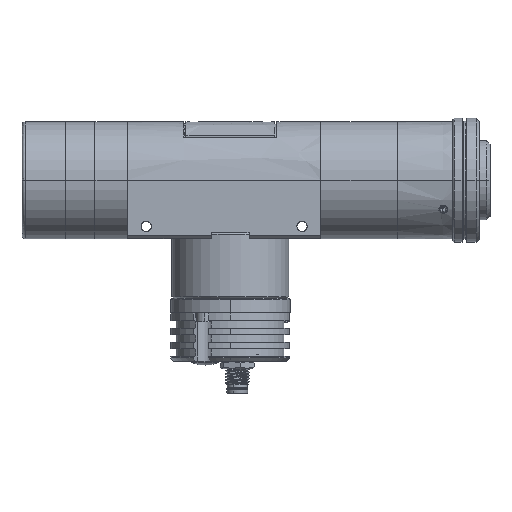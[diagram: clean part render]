
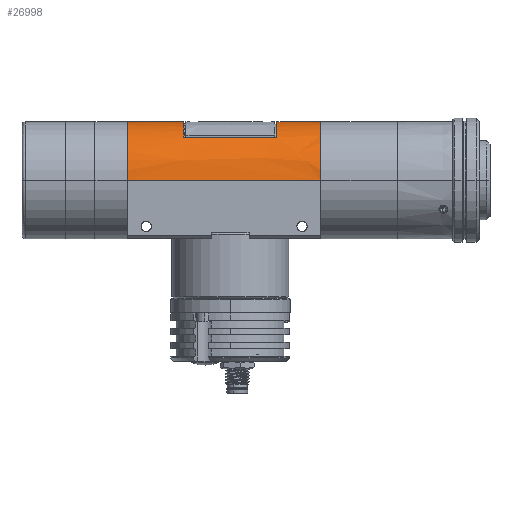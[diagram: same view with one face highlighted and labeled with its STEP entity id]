
A CAD part, top view. The second image highlights one B-rep face of the part: STEP entity #26998.
In plain terms, the highlighted face is a revolution surface.
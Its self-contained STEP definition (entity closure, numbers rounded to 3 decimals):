
#26998 = ADVANCED_FACE('',(#26999,#27071),#27013,.T.);
#26999 = FACE_BOUND('',#27000,.T.);
#27000 = EDGE_LOOP('',(#27001,#27026,#27042,#27057));
#27001 = ORIENTED_EDGE('',*,*,#27002,.F.);
#27002 = EDGE_CURVE('',#27003,#27005,#27007,.T.);
#27003 = VERTEX_POINT('',#27004);
#27004 = CARTESIAN_POINT('',(166.34,0.,18.85));
#27005 = VERTEX_POINT('',#27006);
#27006 = CARTESIAN_POINT('',(228.54,0.,18.85));
#27007 = SURFACE_CURVE('',#27008,(#27012),.PCURVE_S1.);
#27008 = LINE('',#27009,#27010);
#27009 = CARTESIAN_POINT('',(166.34,0.,18.85));
#27010 = VECTOR('',#27011,1.);
#27011 = DIRECTION('',(1.,0.,0.));
#27012 = PCURVE('',#27013,#27021);
#27013 = SURFACE_OF_REVOLUTION('',#27014,#27018);
#27014 = LINE('',#27015,#27016);
#27015 = CARTESIAN_POINT('',(228.54,0.,18.85));
#27016 = VECTOR('',#27017,1.);
#27017 = DIRECTION('',(-1.,0.,0.));
#27018 = AXIS1_PLACEMENT('',#27019,#27020);
#27019 = CARTESIAN_POINT('',(103.958,0.,0.));
#27020 = DIRECTION('',(1.,0.,0.));
#27021 = DEFINITIONAL_REPRESENTATION('',(#27022),#27025);
#27022 = B_SPLINE_CURVE_WITH_KNOTS('',1,(#27023,#27024),.UNSPECIFIED.,
  .F.,.F.,(2,2),(0.,62.2),.PIECEWISE_BEZIER_KNOTS.);
#27023 = CARTESIAN_POINT('',(6.283,62.2));
#27024 = CARTESIAN_POINT('',(6.283,0.));
#27025 = ( GEOMETRIC_REPRESENTATION_CONTEXT(2) 
PARAMETRIC_REPRESENTATION_CONTEXT() REPRESENTATION_CONTEXT('',''
  ) );
#27026 = ORIENTED_EDGE('',*,*,#27027,.F.);
#27027 = EDGE_CURVE('',#27028,#27003,#27030,.T.);
#27028 = VERTEX_POINT('',#27029);
#27029 = CARTESIAN_POINT('',(166.34,0.,-18.85));
#27030 = SURFACE_CURVE('',#27031,(#27036),.PCURVE_S1.);
#27031 = CIRCLE('',#27032,18.85);
#27032 = AXIS2_PLACEMENT_3D('',#27033,#27034,#27035);
#27033 = CARTESIAN_POINT('',(166.34,0.,0.));
#27034 = DIRECTION('',(1.,0.,0.));
#27035 = DIRECTION('',(0.,0.,-1.));
#27036 = PCURVE('',#27013,#27037);
#27037 = DEFINITIONAL_REPRESENTATION('',(#27038),#27041);
#27038 = B_SPLINE_CURVE_WITH_KNOTS('',1,(#27039,#27040),.UNSPECIFIED.,
  .F.,.F.,(2,2),(0.,3.142),.PIECEWISE_BEZIER_KNOTS.);
#27039 = CARTESIAN_POINT('',(3.142,62.2));
#27040 = CARTESIAN_POINT('',(6.283,62.2));
#27041 = ( GEOMETRIC_REPRESENTATION_CONTEXT(2) 
PARAMETRIC_REPRESENTATION_CONTEXT() REPRESENTATION_CONTEXT('',''
  ) );
#27042 = ORIENTED_EDGE('',*,*,#27043,.F.);
#27043 = EDGE_CURVE('',#27044,#27028,#27046,.T.);
#27044 = VERTEX_POINT('',#27045);
#27045 = CARTESIAN_POINT('',(228.54,0.,-18.85));
#27046 = SURFACE_CURVE('',#27047,(#27051),.PCURVE_S1.);
#27047 = LINE('',#27048,#27049);
#27048 = CARTESIAN_POINT('',(228.54,0.,-18.85));
#27049 = VECTOR('',#27050,1.);
#27050 = DIRECTION('',(-1.,0.,0.));
#27051 = PCURVE('',#27013,#27052);
#27052 = DEFINITIONAL_REPRESENTATION('',(#27053),#27056);
#27053 = B_SPLINE_CURVE_WITH_KNOTS('',1,(#27054,#27055),.UNSPECIFIED.,
  .F.,.F.,(2,2),(0.,62.2),.PIECEWISE_BEZIER_KNOTS.);
#27054 = CARTESIAN_POINT('',(3.142,0.));
#27055 = CARTESIAN_POINT('',(3.142,62.2));
#27056 = ( GEOMETRIC_REPRESENTATION_CONTEXT(2) 
PARAMETRIC_REPRESENTATION_CONTEXT() REPRESENTATION_CONTEXT('',''
  ) );
#27057 = ORIENTED_EDGE('',*,*,#27058,.F.);
#27058 = EDGE_CURVE('',#27005,#27044,#27059,.T.);
#27059 = SURFACE_CURVE('',#27060,(#27065),.PCURVE_S1.);
#27060 = CIRCLE('',#27061,18.85);
#27061 = AXIS2_PLACEMENT_3D('',#27062,#27063,#27064);
#27062 = CARTESIAN_POINT('',(228.54,0.,0.));
#27063 = DIRECTION('',(-1.,0.,0.));
#27064 = DIRECTION('',(0.,0.,1.));
#27065 = PCURVE('',#27013,#27066);
#27066 = DEFINITIONAL_REPRESENTATION('',(#27067),#27070);
#27067 = B_SPLINE_CURVE_WITH_KNOTS('',1,(#27068,#27069),.UNSPECIFIED.,
  .F.,.F.,(2,2),(0.,3.142),.PIECEWISE_BEZIER_KNOTS.);
#27068 = CARTESIAN_POINT('',(6.283,0.));
#27069 = CARTESIAN_POINT('',(3.142,0.));
#27070 = ( GEOMETRIC_REPRESENTATION_CONTEXT(2) 
PARAMETRIC_REPRESENTATION_CONTEXT() REPRESENTATION_CONTEXT('',''
  ) );
#27071 = FACE_BOUND('',#27072,.T.);
#27072 = EDGE_LOOP('',(#27073,#27091,#27106,#27122));
#27073 = ORIENTED_EDGE('',*,*,#27074,.F.);
#27074 = EDGE_CURVE('',#27075,#27077,#27079,.T.);
#27075 = VERTEX_POINT('',#27076);
#27076 = CARTESIAN_POINT('',(184.45,13.85,12.787));
#27077 = VERTEX_POINT('',#27078);
#27078 = CARTESIAN_POINT('',(184.45,13.85,-12.787));
#27079 = SURFACE_CURVE('',#27080,(#27085),.PCURVE_S1.);
#27080 = CIRCLE('',#27081,18.85);
#27081 = AXIS2_PLACEMENT_3D('',#27082,#27083,#27084);
#27082 = CARTESIAN_POINT('',(184.45,0.,
    0.));
#27083 = DIRECTION('',(-1.,0.,0.));
#27084 = DIRECTION('',(0.,0.735,0.678)
  );
#27085 = PCURVE('',#27013,#27086);
#27086 = DEFINITIONAL_REPRESENTATION('',(#27087),#27090);
#27087 = B_SPLINE_CURVE_WITH_KNOTS('',1,(#27088,#27089),.UNSPECIFIED.,
  .F.,.F.,(2,2),(0.,1.491),.PIECEWISE_BEZIER_KNOTS.);
#27088 = CARTESIAN_POINT('',(5.458,44.09));
#27089 = CARTESIAN_POINT('',(3.967,44.09));
#27090 = ( GEOMETRIC_REPRESENTATION_CONTEXT(2) 
PARAMETRIC_REPRESENTATION_CONTEXT() REPRESENTATION_CONTEXT('',''
  ) );
#27091 = ORIENTED_EDGE('',*,*,#27092,.F.);
#27092 = EDGE_CURVE('',#27093,#27075,#27095,.T.);
#27093 = VERTEX_POINT('',#27094);
#27094 = CARTESIAN_POINT('',(214.45,13.85,12.787));
#27095 = SURFACE_CURVE('',#27096,(#27100),.PCURVE_S1.);
#27096 = LINE('',#27097,#27098);
#27097 = CARTESIAN_POINT('',(214.45,13.85,12.787));
#27098 = VECTOR('',#27099,1.);
#27099 = DIRECTION('',(-1.,0.,0.));
#27100 = PCURVE('',#27013,#27101);
#27101 = DEFINITIONAL_REPRESENTATION('',(#27102),#27105);
#27102 = B_SPLINE_CURVE_WITH_KNOTS('',1,(#27103,#27104),.UNSPECIFIED.,
  .F.,.F.,(2,2),(0.,30.),.PIECEWISE_BEZIER_KNOTS.);
#27103 = CARTESIAN_POINT('',(5.458,14.09));
#27104 = CARTESIAN_POINT('',(5.458,44.09));
#27105 = ( GEOMETRIC_REPRESENTATION_CONTEXT(2) 
PARAMETRIC_REPRESENTATION_CONTEXT() REPRESENTATION_CONTEXT('',''
  ) );
#27106 = ORIENTED_EDGE('',*,*,#27107,.F.);
#27107 = EDGE_CURVE('',#27108,#27093,#27110,.T.);
#27108 = VERTEX_POINT('',#27109);
#27109 = CARTESIAN_POINT('',(214.45,13.85,-12.787));
#27110 = SURFACE_CURVE('',#27111,(#27116),.PCURVE_S1.);
#27111 = CIRCLE('',#27112,18.85);
#27112 = AXIS2_PLACEMENT_3D('',#27113,#27114,#27115);
#27113 = CARTESIAN_POINT('',(214.45,0.,
    0.));
#27114 = DIRECTION('',(1.,0.,0.));
#27115 = DIRECTION('',(0.,0.735,-0.678)
  );
#27116 = PCURVE('',#27013,#27117);
#27117 = DEFINITIONAL_REPRESENTATION('',(#27118),#27121);
#27118 = B_SPLINE_CURVE_WITH_KNOTS('',1,(#27119,#27120),.UNSPECIFIED.,
  .F.,.F.,(2,2),(0.,1.491),.PIECEWISE_BEZIER_KNOTS.);
#27119 = CARTESIAN_POINT('',(3.967,14.09));
#27120 = CARTESIAN_POINT('',(5.458,14.09));
#27121 = ( GEOMETRIC_REPRESENTATION_CONTEXT(2) 
PARAMETRIC_REPRESENTATION_CONTEXT() REPRESENTATION_CONTEXT('',''
  ) );
#27122 = ORIENTED_EDGE('',*,*,#27123,.F.);
#27123 = EDGE_CURVE('',#27077,#27108,#27124,.T.);
#27124 = SURFACE_CURVE('',#27125,(#27129),.PCURVE_S1.);
#27125 = LINE('',#27126,#27127);
#27126 = CARTESIAN_POINT('',(184.45,13.85,-12.787));
#27127 = VECTOR('',#27128,1.);
#27128 = DIRECTION('',(1.,0.,0.));
#27129 = PCURVE('',#27013,#27130);
#27130 = DEFINITIONAL_REPRESENTATION('',(#27131),#27134);
#27131 = B_SPLINE_CURVE_WITH_KNOTS('',1,(#27132,#27133),.UNSPECIFIED.,
  .F.,.F.,(2,2),(0.,30.),.PIECEWISE_BEZIER_KNOTS.);
#27132 = CARTESIAN_POINT('',(3.967,44.09));
#27133 = CARTESIAN_POINT('',(3.967,14.09));
#27134 = ( GEOMETRIC_REPRESENTATION_CONTEXT(2) 
PARAMETRIC_REPRESENTATION_CONTEXT() REPRESENTATION_CONTEXT('',''
  ) );
